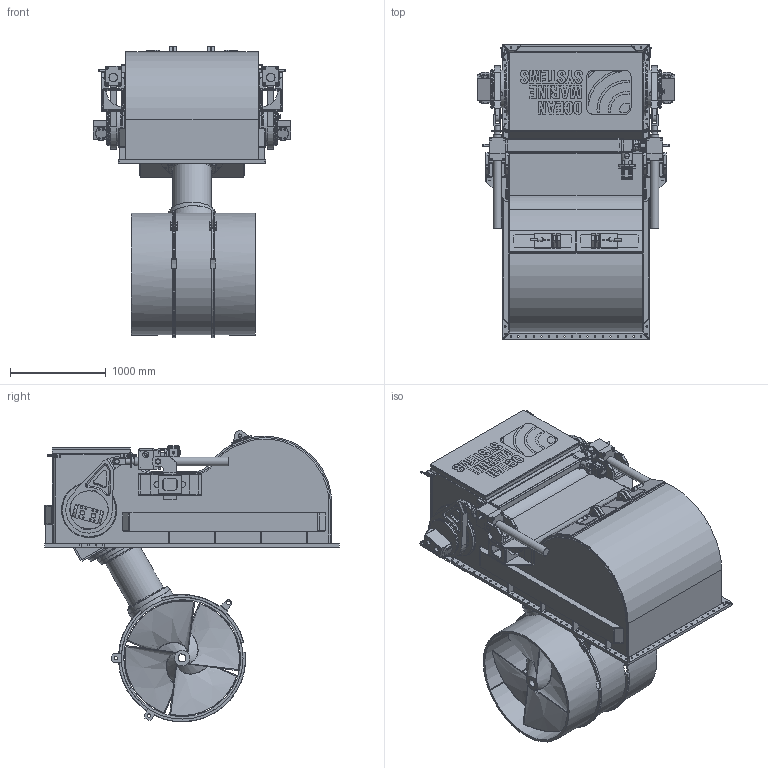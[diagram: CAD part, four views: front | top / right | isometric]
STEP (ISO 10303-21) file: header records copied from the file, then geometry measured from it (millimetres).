
FILE_DESCRIPTION(/* description */ (''),/* implementation_level */ '2;1');
FILE_NAME(/* name */ 'Q:\THRUSTERS\THRUSTER SALES & SUPPORT DOCS\THRUSTER Sales\H-S\H-1200-S\H-1200-S Deployed.stp',/* time_stamp */ '2021-01-26T13:09:28+00:00',/* author */ ('Barney.Webborn'),/* organization */ (''),/* preprocessor_version */ 'ST-DEVELOPER v17.2',/* originating_system */ 'Autodesk Inventor 2019',/* authorisation */ '');
FILE_SCHEMA (('AUTOMOTIVE_DESIGN { 1 0 10303 214 3 1 1 }'));
Length unit declared in the file: millimetre
Products named in the file (1): H-1200-S_Shrinkwrap_1
Bounding box: 2064 x 3076.5 x 3042.49 mm (x, y, z)
Volume: 625500727.6 mm3; surface area: 66373145.7 mm2
Topology: 15 solids, 15 shells, 6394 faces, 17301 edges, 11077 vertices
Faces by surface type: plane 3143, cylinder 1483, bspline 1179, cone 393, torus 148, sphere 48
Full cylindrical faces by diameter (mm): 3 x12, 7.2 x4, 8 x4, 10 x2, 12 x2, 15.8 x16, 16 x20, 16.5 x12, 16.75 x24, 17 x108, 17.29 x8, 17.5 x68, 18.376 x4, 20.5 x32, 21 x16, 24 x4, 25 x6, 25.5 x1, 26 x8, 26.25 x2, 28 x2, 28.5 x1, 29.425 x1, 30 x12, 30.75 x2, 31.25 x3, 31.42 x1, 31.67 x2, 32 x16, 32.195 x8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
Entity records: 304512 total; most frequent: CARTESIAN_POINT 142088, ORIENTED_EDGE 34242, DIRECTION 29863, EDGE_CURVE 17121, VERTEX_POINT 11077, AXIS2_PLACEMENT_3D 10195, LINE 9473, VECTOR 9473
